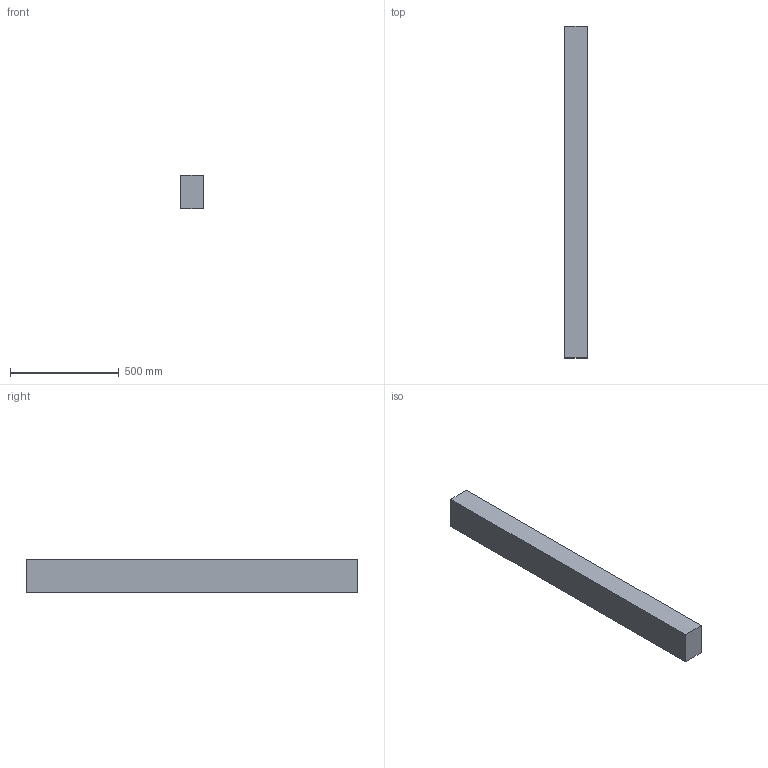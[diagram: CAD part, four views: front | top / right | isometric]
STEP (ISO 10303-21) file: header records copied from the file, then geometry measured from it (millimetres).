
FILE_DESCRIPTION(/* description */ (''),/* implementation_level */ '2;1');
FILE_NAME(/* name */ '4x6x60',/* time_stamp */ '2024-09-20T11:45:35-05:00',/* author */ (''),/* organization */ (''),/* preprocessor_version */ 'ST-DEVELOPER v19.2',/* originating_system */ 'Rhino 8.5',/* authorisation */ '');
FILE_SCHEMA (('CONFIG_CONTROL_DESIGN'));
Length unit declared in the file: inch
Products named in the file (1): Document
Bounding box: 101.6 x 1524 x 152.4 mm (x, y, z)
Volume: 23597372.2 mm3; surface area: 805159.7 mm2
Topology: 1 solids, 1 shells, 6 faces, 12 edges, 8 vertices
Faces by surface type: plane 6
Entity records: 226 total; most frequent: CARTESIAN_POINT 40, ORIENTED_EDGE 24, EDGE_CURVE 12, B_SPLINE_CURVE_WITH_KNOTS 12, DIRECTION 10, VERTEX_POINT 8, AXIS2_PLACEMENT_3D 8, ORGANIZATION 7
